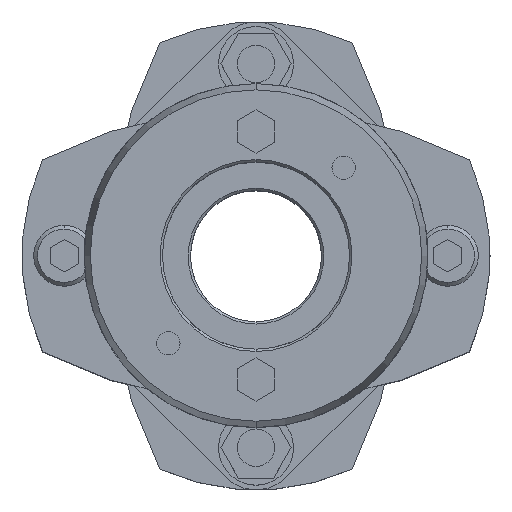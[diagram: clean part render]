
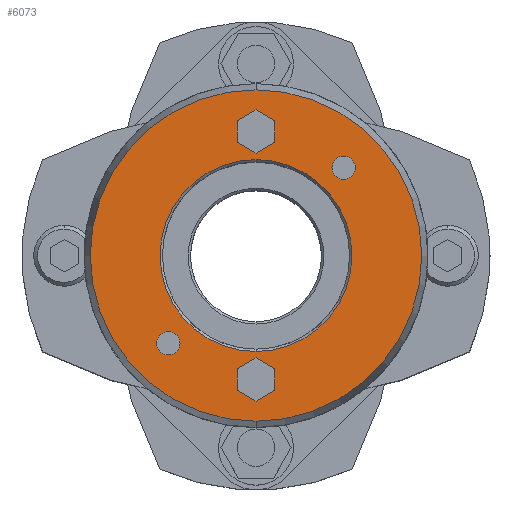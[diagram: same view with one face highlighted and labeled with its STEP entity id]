
A CAD part, top view. The second image highlights one B-rep face of the part: STEP entity #6073.
In plain terms, the highlighted planar face has unit normal (0, 0, 1).
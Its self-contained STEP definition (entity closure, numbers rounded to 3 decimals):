
#1677=CARTESIAN_POINT('',(0.,20.5,55.5));
#1678=VERTEX_POINT('',#1677);
#1694=CARTESIAN_POINT('',(0.,-20.5,55.5));
#1695=VERTEX_POINT('',#1694);
#1702=CARTESIAN_POINT('',(0.,0.,55.5));
#1703=DIRECTION('',(0.0,0.0,1.0));
#1704=DIRECTION('',(0.0,1.0,0.0));
#1705=AXIS2_PLACEMENT_3D('',#1702,#1703,#1704);
#1706=CIRCLE('',#1705,20.5);
#1707=EDGE_CURVE('',#1695,#1678,#1706,.T.);
#1823=CARTESIAN_POINT('',(0.,-35.41,55.5));
#1824=VERTEX_POINT('',#1823);
#1833=CARTESIAN_POINT('',(0.,35.41,55.5));
#1834=VERTEX_POINT('',#1833);
#1835=CARTESIAN_POINT('',(0.,0.,55.5));
#1836=DIRECTION('',(0.0,0.0,-1.0));
#1837=DIRECTION('',(0.0,-1.0,0.0));
#1838=AXIS2_PLACEMENT_3D('',#1835,#1836,#1837);
#1839=CIRCLE('',#1838,35.41);
#1840=EDGE_CURVE('',#1824,#1834,#1839,.T.);
#2009=CARTESIAN_POINT('',(18.738,21.238,55.5));
#2010=VERTEX_POINT('',#2009);
#2026=CARTESIAN_POINT('',(18.738,16.238,55.5));
#2027=VERTEX_POINT('',#2026);
#2034=CARTESIAN_POINT('',(18.738,18.738,55.5));
#2035=DIRECTION('',(0.0,0.0,-1.0));
#2036=DIRECTION('',(0.0,1.0,0.0));
#2037=AXIS2_PLACEMENT_3D('',#2034,#2035,#2036);
#2038=CIRCLE('',#2037,2.5);
#2039=EDGE_CURVE('',#2010,#2027,#2038,.T.);
#2051=CARTESIAN_POINT('',(-18.738,-16.238,55.5));
#2052=VERTEX_POINT('',#2051);
#2068=CARTESIAN_POINT('',(-18.738,-21.238,55.5));
#2069=VERTEX_POINT('',#2068);
#2076=CARTESIAN_POINT('',(-18.738,-18.738,55.5));
#2077=DIRECTION('',(0.0,0.0,-1.0));
#2078=DIRECTION('',(0.0,1.0,0.0));
#2079=AXIS2_PLACEMENT_3D('',#2076,#2077,#2078);
#2080=CIRCLE('',#2079,2.5);
#2081=EDGE_CURVE('',#2052,#2069,#2080,.T.);
#5199=CARTESIAN_POINT('',(0.,-21.881,55.5));
#5200=VERTEX_POINT('',#5199);
#5207=CARTESIAN_POINT('',(-4.,-24.191,55.5));
#5208=VERTEX_POINT('',#5207);
#5209=CARTESIAN_POINT('',(-4.,-24.191,55.5));
#5210=DIRECTION('',(0.866,0.5,0.0));
#5211=VECTOR('',#5210,4.619);
#5212=LINE('',#5209,#5211);
#5213=EDGE_CURVE('',#5208,#5200,#5212,.T.);
#5237=CARTESIAN_POINT('',(4.,-24.191,55.5));
#5238=VERTEX_POINT('',#5237);
#5245=CARTESIAN_POINT('',(0.,-21.881,55.5));
#5246=DIRECTION('',(0.866,-0.5,0.0));
#5247=VECTOR('',#5246,4.619);
#5248=LINE('',#5245,#5247);
#5249=EDGE_CURVE('',#5200,#5238,#5248,.T.);
#5268=CARTESIAN_POINT('',(4.,-28.809,55.5));
#5269=VERTEX_POINT('',#5268);
#5276=CARTESIAN_POINT('',(4.,-24.191,55.5));
#5277=DIRECTION('',(0.0,-1.0,0.0));
#5278=VECTOR('',#5277,4.619);
#5279=LINE('',#5276,#5278);
#5280=EDGE_CURVE('',#5238,#5269,#5279,.T.);
#5299=CARTESIAN_POINT('',(0.,-31.119,55.5));
#5300=VERTEX_POINT('',#5299);
#5307=CARTESIAN_POINT('',(4.,-28.809,55.5));
#5308=DIRECTION('',(-0.866,-0.5,0.0));
#5309=VECTOR('',#5308,4.619);
#5310=LINE('',#5307,#5309);
#5311=EDGE_CURVE('',#5269,#5300,#5310,.T.);
#5330=CARTESIAN_POINT('',(-4.,-28.809,55.5));
#5331=VERTEX_POINT('',#5330);
#5338=CARTESIAN_POINT('',(0.,-31.119,55.5));
#5339=DIRECTION('',(-0.866,0.5,0.0));
#5340=VECTOR('',#5339,4.619);
#5341=LINE('',#5338,#5340);
#5342=EDGE_CURVE('',#5300,#5331,#5341,.T.);
#5360=CARTESIAN_POINT('',(-4.,-28.809,55.5));
#5361=DIRECTION('',(0.0,1.0,0.0));
#5362=VECTOR('',#5361,4.619);
#5363=LINE('',#5360,#5362);
#5364=EDGE_CURVE('',#5331,#5208,#5363,.T.);
#5399=CARTESIAN_POINT('',(0.,31.119,55.5));
#5400=VERTEX_POINT('',#5399);
#5407=CARTESIAN_POINT('',(-4.,28.809,55.5));
#5408=VERTEX_POINT('',#5407);
#5409=CARTESIAN_POINT('',(-4.,28.809,55.5));
#5410=DIRECTION('',(0.866,0.5,0.0));
#5411=VECTOR('',#5410,4.619);
#5412=LINE('',#5409,#5411);
#5413=EDGE_CURVE('',#5408,#5400,#5412,.T.);
#5437=CARTESIAN_POINT('',(4.,28.809,55.5));
#5438=VERTEX_POINT('',#5437);
#5445=CARTESIAN_POINT('',(0.,31.119,55.5));
#5446=DIRECTION('',(0.866,-0.5,0.0));
#5447=VECTOR('',#5446,4.619);
#5448=LINE('',#5445,#5447);
#5449=EDGE_CURVE('',#5400,#5438,#5448,.T.);
#5468=CARTESIAN_POINT('',(4.,24.191,55.5));
#5469=VERTEX_POINT('',#5468);
#5476=CARTESIAN_POINT('',(4.,28.809,55.5));
#5477=DIRECTION('',(0.0,-1.0,0.0));
#5478=VECTOR('',#5477,4.619);
#5479=LINE('',#5476,#5478);
#5480=EDGE_CURVE('',#5438,#5469,#5479,.T.);
#5499=CARTESIAN_POINT('',(0.,21.881,55.5));
#5500=VERTEX_POINT('',#5499);
#5507=CARTESIAN_POINT('',(4.,24.191,55.5));
#5508=DIRECTION('',(-0.866,-0.5,0.0));
#5509=VECTOR('',#5508,4.619);
#5510=LINE('',#5507,#5509);
#5511=EDGE_CURVE('',#5469,#5500,#5510,.T.);
#5530=CARTESIAN_POINT('',(-4.,24.191,55.5));
#5531=VERTEX_POINT('',#5530);
#5538=CARTESIAN_POINT('',(0.,21.881,55.5));
#5539=DIRECTION('',(-0.866,0.5,0.0));
#5540=VECTOR('',#5539,4.619);
#5541=LINE('',#5538,#5540);
#5542=EDGE_CURVE('',#5500,#5531,#5541,.T.);
#5560=CARTESIAN_POINT('',(-4.,24.191,55.5));
#5561=DIRECTION('',(0.0,1.0,0.0));
#5562=VECTOR('',#5561,4.619);
#5563=LINE('',#5560,#5562);
#5564=EDGE_CURVE('',#5531,#5408,#5563,.T.);
#5590=CARTESIAN_POINT('',(-18.738,-18.738,55.5));
#5591=DIRECTION('',(0.0,0.0,-1.0));
#5592=DIRECTION('',(0.0,1.0,0.0));
#5593=AXIS2_PLACEMENT_3D('',#5590,#5591,#5592);
#5594=CIRCLE('',#5593,2.5);
#5595=EDGE_CURVE('',#2069,#2052,#5594,.T.);
#5624=CARTESIAN_POINT('',(18.738,18.738,55.5));
#5625=DIRECTION('',(0.0,0.0,-1.0));
#5626=DIRECTION('',(0.0,1.0,0.0));
#5627=AXIS2_PLACEMENT_3D('',#5624,#5625,#5626);
#5628=CIRCLE('',#5627,2.5);
#5629=EDGE_CURVE('',#2027,#2010,#5628,.T.);
#6020=CARTESIAN_POINT('',(0.,0.,55.5));
#6021=DIRECTION('',(0.0,0.0,-1.0));
#6022=DIRECTION('',(0.0,-1.0,0.0));
#6023=AXIS2_PLACEMENT_3D('',#6020,#6021,#6022);
#6024=CIRCLE('',#6023,35.41);
#6025=EDGE_CURVE('',#1834,#1824,#6024,.T.);
#6030=CARTESIAN_POINT('',(0.,3.341,55.5));
#6031=DIRECTION('',(0.0,0.0,1.0));
#6032=DIRECTION('',(0.0,1.0,0.0));
#6033=AXIS2_PLACEMENT_3D('',#6030,#6031,#6032);
#6034=PLANE('',#6033);
#6035=ORIENTED_EDGE('',*,*,#6025,.F.);
#6036=ORIENTED_EDGE('',*,*,#1840,.F.);
#6037=EDGE_LOOP('',(#6035,#6036));
#6038=FACE_OUTER_BOUND('',#6037,.T.);
#6039=ORIENTED_EDGE('',*,*,#5213,.T.);
#6040=ORIENTED_EDGE('',*,*,#5249,.T.);
#6041=ORIENTED_EDGE('',*,*,#5280,.T.);
#6042=ORIENTED_EDGE('',*,*,#5311,.T.);
#6043=ORIENTED_EDGE('',*,*,#5342,.T.);
#6044=ORIENTED_EDGE('',*,*,#5364,.T.);
#6045=EDGE_LOOP('',(#6039,#6040,#6041,#6042,#6043,#6044));
#6046=FACE_BOUND('',#6045,.T.);
#6047=ORIENTED_EDGE('',*,*,#5413,.T.);
#6048=ORIENTED_EDGE('',*,*,#5449,.T.);
#6049=ORIENTED_EDGE('',*,*,#5480,.T.);
#6050=ORIENTED_EDGE('',*,*,#5511,.T.);
#6051=ORIENTED_EDGE('',*,*,#5542,.T.);
#6052=ORIENTED_EDGE('',*,*,#5564,.T.);
#6053=EDGE_LOOP('',(#6047,#6048,#6049,#6050,#6051,#6052));
#6054=FACE_BOUND('',#6053,.T.);
#6055=ORIENTED_EDGE('',*,*,#2081,.T.);
#6056=ORIENTED_EDGE('',*,*,#5595,.T.);
#6057=EDGE_LOOP('',(#6055,#6056));
#6058=FACE_BOUND('',#6057,.T.);
#6059=ORIENTED_EDGE('',*,*,#2039,.T.);
#6060=ORIENTED_EDGE('',*,*,#5629,.T.);
#6061=EDGE_LOOP('',(#6059,#6060));
#6062=FACE_BOUND('',#6061,.T.);
#6063=ORIENTED_EDGE('',*,*,#1707,.F.);
#6064=CARTESIAN_POINT('',(0.,0.,55.5));
#6065=DIRECTION('',(0.0,0.0,1.0));
#6066=DIRECTION('',(0.0,1.0,0.0));
#6067=AXIS2_PLACEMENT_3D('',#6064,#6065,#6066);
#6068=CIRCLE('',#6067,20.5);
#6069=EDGE_CURVE('',#1678,#1695,#6068,.T.);
#6070=ORIENTED_EDGE('',*,*,#6069,.F.);
#6071=EDGE_LOOP('',(#6063,#6070));
#6072=FACE_BOUND('',#6071,.T.);
#6073=ADVANCED_FACE('',(#6038,#6046,#6054,#6058,#6062,#6072),#6034,.T.);
